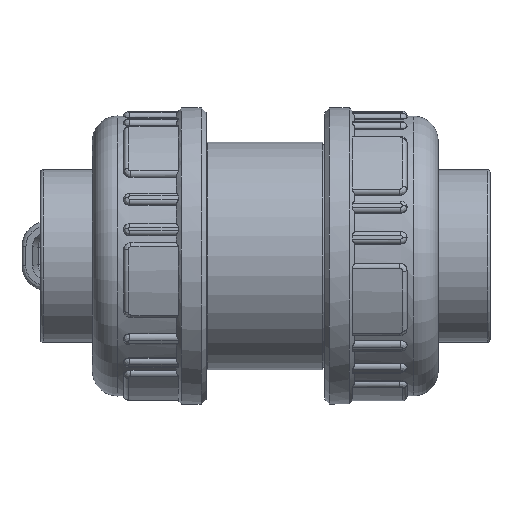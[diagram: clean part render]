
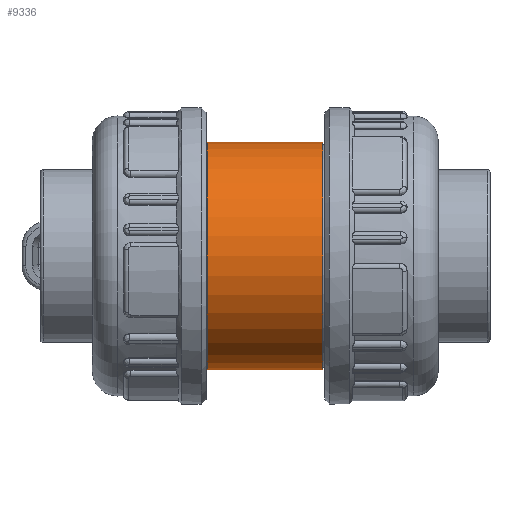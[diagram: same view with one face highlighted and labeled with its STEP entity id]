
A CAD part, left-side view. The second image highlights one B-rep face of the part: STEP entity #9336.
In plain terms, the highlighted cylindrical face has radius 23.075 mm (diameter 46.15 mm), a full revolution.
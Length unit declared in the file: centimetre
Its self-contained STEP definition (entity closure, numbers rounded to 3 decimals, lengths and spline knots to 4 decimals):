
#1557=B_SPLINE_CURVE_WITH_KNOTS('',3,(#66976,#66977,#66978,#66979,#66980,
#66981,#66982,#66983,#66984,#66985,#66986,#66987,#66988,#66989,#66990,#66991,
#66992,#66993,#66994,#66995,#66996,#66997,#66998,#66999,#67000,#67001,#67002,
#67003,#67004,#67005,#67006,#67007,#67008,#67009),.UNSPECIFIED.,.T.,.F.,
(4,2,2,2,2,2,2,2,2,2,2,2,2,2,2,2,4),(0.,0.4184,0.8368,
1.2543,1.6719,2.0894,2.5069,2.9253,
3.3437,3.7621,4.1805,4.598,5.0156,
5.4331,5.8506,6.269,6.6874),
 .UNSPECIFIED.);
#1714=CYLINDRICAL_SURFACE('',#10153,2.3075);
#1782=FACE_BOUND('',#2884,.T.);
#1783=FACE_BOUND('',#2885,.T.);
#2310=FACE_OUTER_BOUND('',#2883,.T.);
#2883=EDGE_LOOP('',(#8088));
#2884=EDGE_LOOP('',(#8089));
#2885=EDGE_LOOP('',(#8090));
#3337=CIRCLE('',#10154,2.3075);
#3338=CIRCLE('',#10155,2.3075);
#4169=VERTEX_POINT('',#66975);
#4177=VERTEX_POINT('',#67072);
#4178=VERTEX_POINT('',#67074);
#5472=EDGE_CURVE('',#4169,#4169,#1557,.T.);
#5486=EDGE_CURVE('',#4177,#4177,#3337,.T.);
#5487=EDGE_CURVE('',#4178,#4178,#3338,.T.);
#8088=ORIENTED_EDGE('',*,*,#5486,.F.);
#8089=ORIENTED_EDGE('',*,*,#5472,.T.);
#8090=ORIENTED_EDGE('',*,*,#5487,.T.);
#9336=ADVANCED_FACE('',(#2310,#1782,#1783),#1714,.T.);
#10153=AXIS2_PLACEMENT_3D('',#67071,#12275,#12276);
#10154=AXIS2_PLACEMENT_3D('',#67073,#12277,#12278);
#10155=AXIS2_PLACEMENT_3D('',#67075,#12279,#12280);
#12275=DIRECTION('center_axis',(0.,-1.,0.));
#12276=DIRECTION('ref_axis',(-1.,0.,0.));
#12277=DIRECTION('center_axis',(0.,-1.,0.));
#12278=DIRECTION('ref_axis',(1.,0.,0.));
#12279=DIRECTION('center_axis',(0.,-1.,0.));
#12280=DIRECTION('ref_axis',(1.,0.,0.));
#66975=CARTESIAN_POINT('',(2.0338,0.,-1.09));
#66976=CARTESIAN_POINT('Ctrl Pts',(2.0338,0.,
-1.09));
#66977=CARTESIAN_POINT('Ctrl Pts',(2.0338,-0.1395,
-1.09));
#66978=CARTESIAN_POINT('Ctrl Pts',(2.0497,-0.2863,
-1.0617));
#66979=CARTESIAN_POINT('Ctrl Pts',(2.1039,-0.554,
-0.9498));
#66980=CARTESIAN_POINT('Ctrl Pts',(2.1411,-0.6751,
-0.8664));
#66981=CARTESIAN_POINT('Ctrl Pts',(2.2088,-0.8662,
-0.6753));
#66982=CARTESIAN_POINT('Ctrl Pts',(2.2441,-0.9498,
-0.5542));
#66983=CARTESIAN_POINT('Ctrl Pts',(2.2937,-1.0617,-0.2862));
#66984=CARTESIAN_POINT('Ctrl Pts',(2.3075,-1.09,-0.1392));
#66985=CARTESIAN_POINT('Ctrl Pts',(2.3075,-1.09,0.1392));
#66986=CARTESIAN_POINT('Ctrl Pts',(2.2937,-1.0617,0.2862));
#66987=CARTESIAN_POINT('Ctrl Pts',(2.2441,-0.9498,
0.5542));
#66988=CARTESIAN_POINT('Ctrl Pts',(2.2088,-0.8662,
0.6753));
#66989=CARTESIAN_POINT('Ctrl Pts',(2.1411,-0.6751,
0.8664));
#66990=CARTESIAN_POINT('Ctrl Pts',(2.1039,-0.554,
0.9498));
#66991=CARTESIAN_POINT('Ctrl Pts',(2.0497,-0.2863,
1.0617));
#66992=CARTESIAN_POINT('Ctrl Pts',(2.0338,-0.1395,
1.09));
#66993=CARTESIAN_POINT('Ctrl Pts',(2.0338,0.1395,1.09));
#66994=CARTESIAN_POINT('Ctrl Pts',(2.0497,0.2863,1.0617));
#66995=CARTESIAN_POINT('Ctrl Pts',(2.1039,0.554,0.9498));
#66996=CARTESIAN_POINT('Ctrl Pts',(2.1411,0.6751,0.8664));
#66997=CARTESIAN_POINT('Ctrl Pts',(2.2088,0.8662,0.6753));
#66998=CARTESIAN_POINT('Ctrl Pts',(2.2441,0.9498,0.5542));
#66999=CARTESIAN_POINT('Ctrl Pts',(2.2937,1.0617,0.2862));
#67000=CARTESIAN_POINT('Ctrl Pts',(2.3075,1.09,0.1392));
#67001=CARTESIAN_POINT('Ctrl Pts',(2.3075,1.09,-0.1392));
#67002=CARTESIAN_POINT('Ctrl Pts',(2.2937,1.0617,-0.2862));
#67003=CARTESIAN_POINT('Ctrl Pts',(2.2441,0.9498,-0.5542));
#67004=CARTESIAN_POINT('Ctrl Pts',(2.2088,0.8662,-0.6753));
#67005=CARTESIAN_POINT('Ctrl Pts',(2.1411,0.6751,-0.8664));
#67006=CARTESIAN_POINT('Ctrl Pts',(2.1039,0.554,-0.9498));
#67007=CARTESIAN_POINT('Ctrl Pts',(2.0497,0.2863,-1.0617));
#67008=CARTESIAN_POINT('Ctrl Pts',(2.0338,0.1395,-1.09));
#67009=CARTESIAN_POINT('Ctrl Pts',(2.0338,0.,
-1.09));
#67071=CARTESIAN_POINT('Origin',(0.,0.01,0.));
#67072=CARTESIAN_POINT('',(-2.3075,-1.16,0.));
#67073=CARTESIAN_POINT('Origin',(0.,-1.16,0.));
#67074=CARTESIAN_POINT('',(-2.3075,1.18,0.));
#67075=CARTESIAN_POINT('Origin',(0.,1.18,0.));
